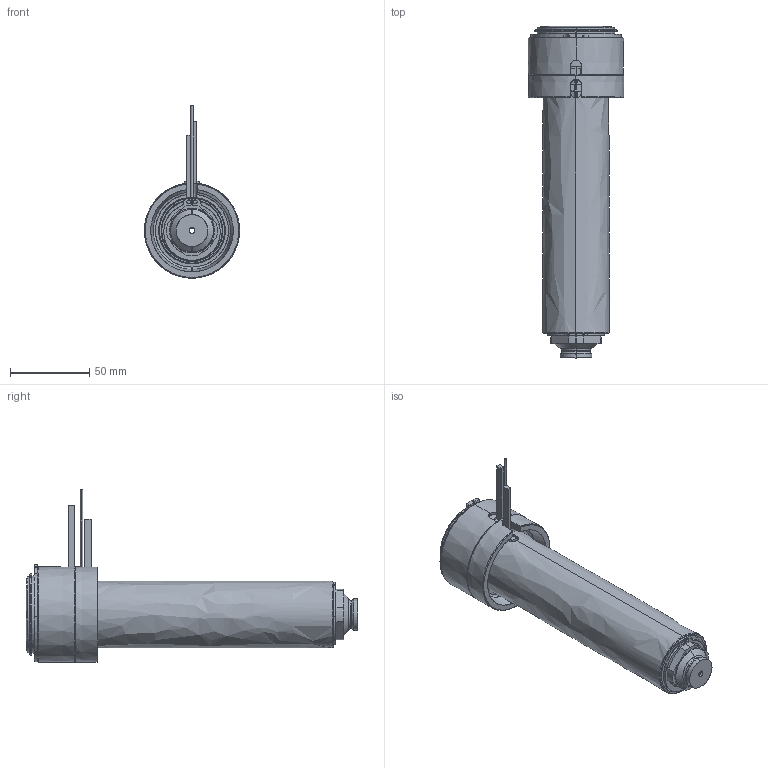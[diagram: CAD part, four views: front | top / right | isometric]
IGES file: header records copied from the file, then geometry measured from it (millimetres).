
Start section: SolidWorks IGES file using analytic representation for surfaces
Global section: file name: C:\Documents and Settings\ws-20\Desktop\TEM\UGER6607-M-A-1 [Øb-3.3 P-0 ØC-16].IGS; native system: SolidWorks 2012; preprocessor: SolidWorks 2012; author: ws-20; date: 120417.123913; units: millimetre
Bounding box: 60 x 209.25 x 108.65 mm (x, y, z)
Surface area: 109945.1 mm2 (no closed solid volume)
Topology: 0 solids, 0 shells, 165 faces, 3254 edges, 3254 vertices
Faces by surface type: revolution 98, bspline 67
